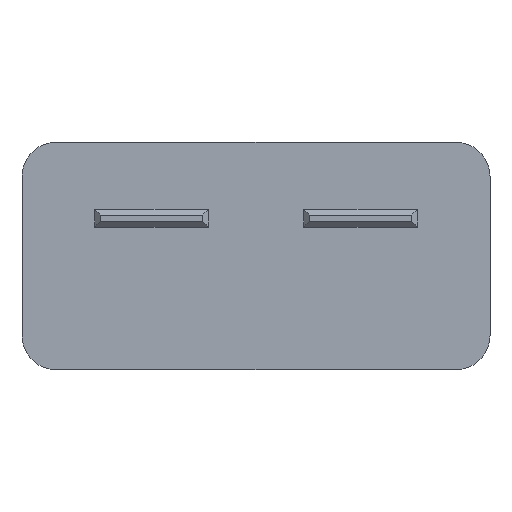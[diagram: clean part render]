
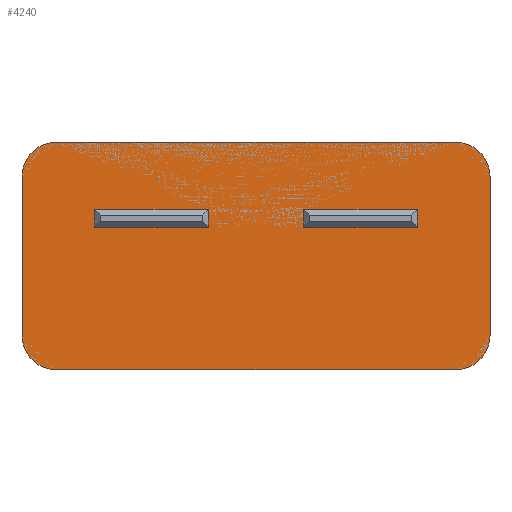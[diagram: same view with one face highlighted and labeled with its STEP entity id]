
A CAD part, front view. The second image highlights one B-rep face of the part: STEP entity #4240.
In plain terms, the highlighted planar face has unit normal (0, -1, 0).
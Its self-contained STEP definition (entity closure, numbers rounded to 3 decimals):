
#30=CIRCLE('',#4433,1.524);
#32=CIRCLE('',#4438,1.524);
#33=CIRCLE('',#4439,1.524);
#34=CIRCLE('',#4440,1.524);
#67=FACE_BOUND('',#597,.T.);
#68=FACE_BOUND('',#598,.T.);
#346=FACE_OUTER_BOUND('',#596,.T.);
#596=EDGE_LOOP('',(#3622,#3623,#3624,#3625,#3626,#3627,#3628,#3629));
#597=EDGE_LOOP('',(#3630,#3631,#3632,#3633));
#598=EDGE_LOOP('',(#3634,#3635,#3636,#3637));
#1088=LINE('',#7310,#1522);
#1090=LINE('',#7314,#1524);
#1092=LINE('',#7318,#1526);
#1094=LINE('',#7321,#1528);
#1139=LINE('',#7413,#1573);
#1142=LINE('',#7418,#1576);
#1144=LINE('',#7422,#1578);
#1145=LINE('',#7424,#1579);
#1149=LINE('',#7443,#1583);
#1151=LINE('',#7447,#1585);
#1152=LINE('',#7451,#1586);
#1153=LINE('',#7455,#1587);
#1522=VECTOR('',#5020,10.);
#1524=VECTOR('',#5024,10.);
#1526=VECTOR('',#5028,10.);
#1528=VECTOR('',#5032,10.);
#1573=VECTOR('',#5125,10.);
#1576=VECTOR('',#5130,10.);
#1578=VECTOR('',#5134,10.);
#1579=VECTOR('',#5137,10.);
#1583=VECTOR('',#5159,10.);
#1585=VECTOR('',#5163,10.);
#1586=VECTOR('',#5166,10.);
#1587=VECTOR('',#5169,10.);
#1931=VERTEX_POINT('',#7307);
#1932=VERTEX_POINT('',#7309);
#1933=VERTEX_POINT('',#7313);
#1934=VERTEX_POINT('',#7317);
#1956=VERTEX_POINT('',#7410);
#1957=VERTEX_POINT('',#7412);
#1958=VERTEX_POINT('',#7416);
#1959=VERTEX_POINT('',#7420);
#1962=VERTEX_POINT('',#7432);
#1963=VERTEX_POINT('',#7433);
#1965=VERTEX_POINT('',#7442);
#1966=VERTEX_POINT('',#7446);
#1967=VERTEX_POINT('',#7448);
#1968=VERTEX_POINT('',#7450);
#1969=VERTEX_POINT('',#7452);
#1970=VERTEX_POINT('',#7454);
#2462=EDGE_CURVE('',#1932,#1931,#1088,.T.);
#2464=EDGE_CURVE('',#1933,#1932,#1090,.T.);
#2466=EDGE_CURVE('',#1934,#1933,#1092,.T.);
#2468=EDGE_CURVE('',#1931,#1934,#1094,.T.);
#2513=EDGE_CURVE('',#1957,#1956,#1139,.T.);
#2516=EDGE_CURVE('',#1956,#1958,#1142,.T.);
#2518=EDGE_CURVE('',#1958,#1959,#1144,.T.);
#2519=EDGE_CURVE('',#1959,#1957,#1145,.T.);
#2523=EDGE_CURVE('',#1962,#1963,#30,.T.);
#2528=EDGE_CURVE('',#1965,#1963,#1149,.T.);
#2530=EDGE_CURVE('',#1962,#1966,#1151,.T.);
#2531=EDGE_CURVE('',#1967,#1966,#32,.T.);
#2532=EDGE_CURVE('',#1967,#1968,#1152,.T.);
#2533=EDGE_CURVE('',#1969,#1968,#33,.T.);
#2534=EDGE_CURVE('',#1969,#1970,#1153,.T.);
#2535=EDGE_CURVE('',#1965,#1970,#34,.T.);
#3622=ORIENTED_EDGE('',*,*,#2523,.F.);
#3623=ORIENTED_EDGE('',*,*,#2530,.T.);
#3624=ORIENTED_EDGE('',*,*,#2531,.F.);
#3625=ORIENTED_EDGE('',*,*,#2532,.T.);
#3626=ORIENTED_EDGE('',*,*,#2533,.F.);
#3627=ORIENTED_EDGE('',*,*,#2534,.T.);
#3628=ORIENTED_EDGE('',*,*,#2535,.F.);
#3629=ORIENTED_EDGE('',*,*,#2528,.T.);
#3630=ORIENTED_EDGE('',*,*,#2462,.T.);
#3631=ORIENTED_EDGE('',*,*,#2468,.T.);
#3632=ORIENTED_EDGE('',*,*,#2466,.T.);
#3633=ORIENTED_EDGE('',*,*,#2464,.T.);
#3634=ORIENTED_EDGE('',*,*,#2513,.T.);
#3635=ORIENTED_EDGE('',*,*,#2516,.T.);
#3636=ORIENTED_EDGE('',*,*,#2518,.T.);
#3637=ORIENTED_EDGE('',*,*,#2519,.T.);
#3920=PLANE('',#4437);
#4240=ADVANCED_FACE('',(#346,#67,#68),#3920,.T.);
#4433=AXIS2_PLACEMENT_3D('',#7434,#5148,#5149);
#4437=AXIS2_PLACEMENT_3D('',#7445,#5161,#5162);
#4438=AXIS2_PLACEMENT_3D('',#7449,#5164,#5165);
#4439=AXIS2_PLACEMENT_3D('',#7453,#5167,#5168);
#4440=AXIS2_PLACEMENT_3D('',#7456,#5170,#5171);
#5020=DIRECTION('',(0.,0.,-1.));
#5024=DIRECTION('',(1.,0.,0.));
#5028=DIRECTION('',(0.,0.,1.));
#5032=DIRECTION('',(-1.,0.,0.));
#5125=DIRECTION('',(0.,0.,1.));
#5130=DIRECTION('',(1.,0.,0.));
#5134=DIRECTION('',(0.,0.,-1.));
#5137=DIRECTION('',(-1.,0.,0.));
#5148=DIRECTION('center_axis',(0.,1.,0.));
#5149=DIRECTION('ref_axis',(-0.707,0.,-0.707));
#5159=DIRECTION('',(0.,0.,-1.));
#5161=DIRECTION('center_axis',(0.,-1.,0.));
#5162=DIRECTION('ref_axis',(0.,0.,-1.));
#5163=DIRECTION('',(1.,0.,0.));
#5164=DIRECTION('center_axis',(0.,1.,0.));
#5165=DIRECTION('ref_axis',(0.707,0.,-0.707));
#5166=DIRECTION('',(0.,0.,1.));
#5167=DIRECTION('center_axis',(0.,1.,0.));
#5168=DIRECTION('ref_axis',(0.707,0.,0.707));
#5169=DIRECTION('',(-1.,0.,0.));
#5170=DIRECTION('center_axis',(0.,1.,0.));
#5171=DIRECTION('ref_axis',(-0.707,0.,0.707));
#7307=CARTESIAN_POINT('',(-2.14,-17.85,1.29));
#7309=CARTESIAN_POINT('',(-2.14,-17.85,2.09));
#7310=CARTESIAN_POINT('',(-2.14,-17.85,1.045));
#7313=CARTESIAN_POINT('',(-7.24,-17.85,2.09));
#7314=CARTESIAN_POINT('',(-3.62,-17.85,2.09));
#7317=CARTESIAN_POINT('',(-7.24,-17.85,1.29));
#7318=CARTESIAN_POINT('',(-7.24,-17.85,0.645));
#7321=CARTESIAN_POINT('',(-1.07,-17.85,1.29));
#7410=CARTESIAN_POINT('',(2.14,-17.85,2.09));
#7412=CARTESIAN_POINT('',(2.14,-17.85,1.29));
#7413=CARTESIAN_POINT('',(2.14,-17.85,1.045));
#7416=CARTESIAN_POINT('',(7.24,-17.85,2.09));
#7418=CARTESIAN_POINT('',(3.62,-17.85,2.09));
#7420=CARTESIAN_POINT('',(7.24,-17.85,1.29));
#7422=CARTESIAN_POINT('',(7.24,-17.85,0.645));
#7424=CARTESIAN_POINT('',(1.07,-17.85,1.29));
#7432=CARTESIAN_POINT('',(-8.976,-17.85,-5.1));
#7433=CARTESIAN_POINT('',(-10.5,-17.85,-3.576));
#7434=CARTESIAN_POINT('Origin',(-8.976,-17.85,-3.576));
#7442=CARTESIAN_POINT('',(-10.5,-17.85,3.576));
#7443=CARTESIAN_POINT('',(-10.5,-17.85,-5.1));
#7445=CARTESIAN_POINT('Origin',(0.,-17.85,0.));
#7446=CARTESIAN_POINT('',(8.976,-17.85,-5.1));
#7447=CARTESIAN_POINT('',(10.5,-17.85,-5.1));
#7448=CARTESIAN_POINT('',(10.5,-17.85,-3.576));
#7449=CARTESIAN_POINT('Origin',(8.976,-17.85,-3.576));
#7450=CARTESIAN_POINT('',(10.5,-17.85,3.576));
#7451=CARTESIAN_POINT('',(10.5,-17.85,5.1));
#7452=CARTESIAN_POINT('',(8.976,-17.85,5.1));
#7453=CARTESIAN_POINT('Origin',(8.976,-17.85,3.576));
#7454=CARTESIAN_POINT('',(-8.976,-17.85,5.1));
#7455=CARTESIAN_POINT('',(-10.5,-17.85,5.1));
#7456=CARTESIAN_POINT('Origin',(-8.976,-17.85,3.576));
